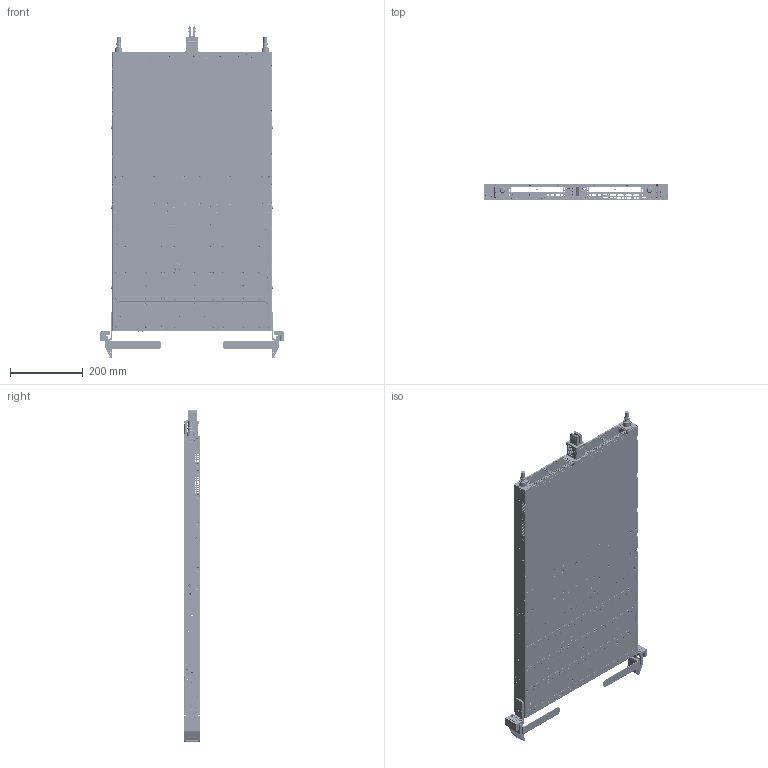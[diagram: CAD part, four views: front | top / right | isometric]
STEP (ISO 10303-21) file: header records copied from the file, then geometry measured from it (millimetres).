
FILE_DESCRIPTION((''),'2;1');
FILE_NAME('MGX-SWITCH-OCP-CON-ASSEM_ASM','2024-09-19T13:12:18',('johnn'),(''),'CREO PARAMETRIC BY PTC INC, 2023254','CREO PARAMETRIC BY PTC INC, 2023254','');
FILE_SCHEMA(('CONFIG_CONTROL_DESIGN','GEOMETRIC_VALIDATION_PROPERTIES_MIM'));
Products named in the file (272): MGX101_CHSS_ASSY_766MM-TTM; Z_PIN_I4-8_O6-6_L3-6__JS_JS_1; Z_PIN_I1-0_O7-5_L3-3_JSO_1_1_JS; SO-M3-4_S5T_1LAST_VERSION_JS_JS; Z_YSKC_D4-5_L3-4_D2JS__JS_1; Z_STF_IM3_OM6_L3-4_JSO_1_1_JS_1; Z_NUT_M6_L2-5_JSO_1_1_JS_1; 2-5L_M3_REMOVABLE_STF_SO_A_JS_A_ASM; F4-M4-1_1LAS_1_1_JS_1; MGX101_CHSS_ASSY_766MM-TTM__ASM; RIVET-3_3_THKJSO_JS_1; MGX101_-TTM-SIDE-WALLS-L__JS_1; MGX101__JS_1; MGX101_TTM-SIDE-WALLS_JS_ASM_1_ASM; MA012806_1LAST_VERSION__JS_ASM__ASM; MGX102_TOP_CVR-JSO-TTM__JS_1; Z_YSKC_D4-5__JS_1; Z_SKC_D5_L3_D3_L1__JS_1; MGX102_T_JS_ASM_1_ASM; SC973_BLADE1_JS_1; SC973_BLADE_TCVJS_1; MGX102_TOP___JS_ASM_1_ASM; MGX973_L1_JS_1; MGX973_JSO_1_1_JS_1; SCR0006-5_JSO__JS_1; MGX101_TOP_JSO_1_JS_1; MA012805_1__JS_ASM_1_ASM; SCR000309_JSO_1_1_JS_1; MGX_EJECT_EAR_LOCK_L_REV_B0_1; MGX_HANDLE_MNT_L_REV_B0_1; SCREW_PH_TORX_M3X10MM_SS_0702_1; MGX_HDL_LINK_PUSH_SPRING_REV_B0; MGX_HDL_LINK_PUSH_SLIDER_REV_B0; MGX_PIN_SLIDER_LINK_REV_B0_1; MGX_MAGNET_HANDLE_REV_B0_1; STOPPER_SLIDER_WASHER_0723_1; MGX_SCREW_M1P4_X2P5MM_1; MGX_HANDLE_MNT_ASSY_REV_B0_ASM__ASM; MGX_HANDLE_LEVER_CON_L_REV_B0_1; MGX_HANDLE_LEVER_L_REV_B0_1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
Assembly tree (461 placements, depth 8):
  MGX-SWITCH-OCP-CON-ASSEM_ASM
    MA013700_FOR___JS_ASM_1_ASM
      MA012806_1LAST_VERSION__JS_ASM__ASM
        MGX101_CHSS_ASSY_766MM-TTM__ASM
          MGX101_CHSS_ASSY_766MM-TTM
          Z_PIN_I4-8_O6-6_L3-6__JS_JS_1  x6
          Z_PIN_I1-0_O7-5_L3-3_JSO_1_1_JS  x8
          SO-M3-4_S5T_1LAST_VERSION_JS_JS  x8
          Z_YSKC_D4-5_L3-4_D2JS__JS_1  x4
          2-5L_M3_REMOVABLE_STF_SO_A_JS_A_ASM
            Z_STF_IM3_OM6_L3-4_JSO_1_1_JS_1
            Z_NUT_M6_L2-5_JSO_1_1_JS_1
          F4-M4-1_1LAS_1_1_JS_1  x2
        RIVET-3_3_THKJSO_JS_1  x14
        MGX101_TTM-SIDE-WALLS_JS_ASM_1_ASM
          MGX101_-TTM-SIDE-WALLS-L__JS_1
          MGX101__JS_1
      MA012805_1__JS_ASM_1_ASM
        MGX102_TOP___JS_ASM_1_ASM
          MGX102_T_JS_ASM_1_ASM
            MGX102_TOP_CVR-JSO-TTM__JS_1
            Z_YSKC_D4-5__JS_1  x6
            Z_SKC_D5_L3_D3_L1__JS_1  x4
          SC973_BLADE1_JS_1
          SC973_BLADE_TCVJS_1
        MGX973_L1_JS_1
        MGX973_JSO_1_1_JS_1
        SCR0006-5_JSO__JS_1  x2
        MGX101_TOP_JSO_1_JS_1  x2
      SCR000309_JSO_1_1_JS_1  x18
      SCR0006-5_JSO__JS_1  x7
      MGX_HANDLE_LEVER_L_REV_B0_ASM_1_ASM
        MGX_EJECT_EAR_LOCK_L_REV_B0_1
        MGX_HANDLE_MNT_ASSY_REV_B0_ASM__ASM
          MGX_HANDLE_MNT_L_REV_B0_1
          SCREW_PH_TORX_M3X10MM_SS_0702_1
          MGX_HDL_LINK_PUSH_SPRING_REV_B0
          MGX_HDL_LINK_PUSH_SLIDER_REV_B0
          MGX_PIN_SLIDER_LINK_REV_B0_1
          MGX_MAGNET_HANDLE_REV_B0_1
          STOPPER_SLIDER_WASHER_0723_1
          MGX_SCREW_M1P4_X2P5MM_1
        MGX_HANDLE_LEVER_ASSY_REV_B0_AS_ASM
          MGX_HANDLE_LEVER_CON_L_REV_B0_1
          MGX_MAGNET_HANDLE_REV_B0_1
          MGX_HANDLE_LEVER_L_REV_B0_1
          SCW_M4X_XX_MM_FH_TORX_SS_0702_1  x2
        MGX_HANDLE_WSR_REV_B0_1_1  x2
        MGX_PIN_4MM_KNURLED_END_REV_B0_
        MGX_HANDLE_LINK_ASSY_REV_B0_ASM_ASM
          MGX_HANDLE_LINK_L_REV_B0_1_ASM
            MGX_HANDLE_LINK_L_REV_B0_1_1
            MGX_HANDLE_LINK_L_REV_B0_1_2
          MGX_PIN_4MM_KNURLED_END_SS_0702
          MGX_HANDLE_LEVER_WSR_REV_B0_1  x2
          MGX_PIN_6MM_KNURLED_END_SS_0702
          PIN_STOPPER_LINK_HANDLE_0702_1  x2
          MGX_COVER_LINK_HANDLE_0702_1
          MGX_HANDLE_LINK_SLIDER_0702_1
      MGX_HANDLE_LEVER_R_REV_B0_ASM_1_ASM
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Bounding box: 506 x 43.68 x 912.23 mm (x, y, z)
Volume: 1142811.5 mm3; surface area: 1946692.3 mm2
Topology: 428 solids, 501 shells, 39499 faces, 108269 edges, 70237 vertices
Faces by surface type: plane 21832, cylinder 10312, cone 3904, bspline 1311, torus 1152, extrusion 932, sphere 56
Entity records: 1066153 total; most frequent: CARTESIAN_POINT 255827, ORIENTED_EDGE 135288, DIRECTION 128970, EDGE_CURVE 67674, VERTEX_POINT 44002, AXIS2_PLACEMENT_3D 43853, VECTOR 41264, LINE 40585
